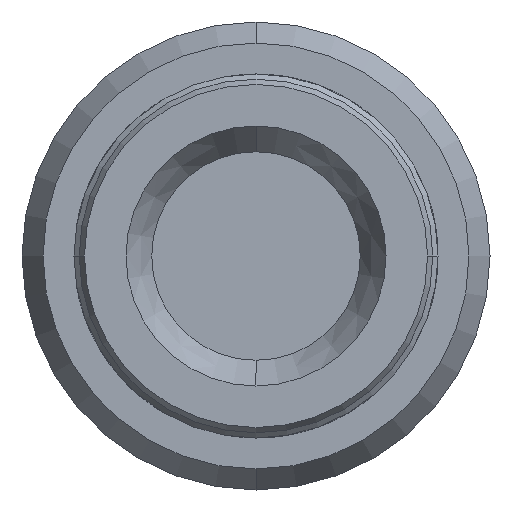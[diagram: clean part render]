
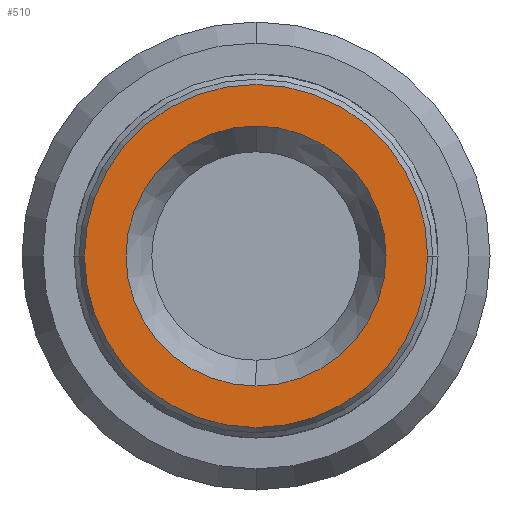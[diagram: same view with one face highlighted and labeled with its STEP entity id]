
A CAD part, front view. The second image highlights one B-rep face of the part: STEP entity #510.
In plain terms, the highlighted planar face has unit normal (0, -1, 0).
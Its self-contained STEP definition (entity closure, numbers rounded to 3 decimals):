
#410 = EDGE_CURVE ( 'NONE', #2781, #3344, #2546, .T. ) ;
#417 = CARTESIAN_POINT ( 'NONE',  ( 0., -121.9, 0. ) ) ;
#427 = CARTESIAN_POINT ( 'NONE',  ( 0., -121.9, 25. ) ) ;
#485 = FACE_OUTER_BOUND ( 'NONE', #2919, .T. ) ;
#510 = ADVANCED_FACE ( 'NONE', ( #2592, #485 ), #923, .F. ) ;
#563 = CARTESIAN_POINT ( 'NONE',  ( -33., -121.9, 0. ) ) ;
#661 = AXIS2_PLACEMENT_3D ( 'NONE', #2537, #2623, #2633 ) ;
#795 = CIRCLE ( 'NONE', #1270, 33. ) ;
#816 = AXIS2_PLACEMENT_3D ( 'NONE', #3795, #1749, #1757 ) ;
#881 = DIRECTION ( 'NONE',  ( 0., 1., 0. ) ) ;
#909 = DIRECTION ( 'NONE',  ( 1., 0., 0. ) ) ;
#923 = PLANE ( 'NONE',  #2102 ) ;
#1187 = DIRECTION ( 'NONE',  ( 0., 1., 0. ) ) ;
#1235 = DIRECTION ( 'NONE',  ( 0., 0., -1. ) ) ;
#1270 = AXIS2_PLACEMENT_3D ( 'NONE', #417, #1694, #909 ) ;
#1589 = VERTEX_POINT ( 'NONE', #563 ) ;
#1686 = ORIENTED_EDGE ( 'NONE', *, *, #410, .T. ) ;
#1694 = DIRECTION ( 'NONE',  ( 0., 1., 0. ) ) ;
#1749 = DIRECTION ( 'NONE',  ( 0., 1., 0. ) ) ;
#1757 = DIRECTION ( 'NONE',  ( 0., 0., -1. ) ) ;
#1836 = EDGE_LOOP ( 'NONE', ( #3068, #1686 ) ) ;
#1948 = EDGE_CURVE ( 'NONE', #3453, #1589, #795, .T. ) ;
#2024 = ORIENTED_EDGE ( 'NONE', *, *, #2798, .F. ) ;
#2102 = AXIS2_PLACEMENT_3D ( 'NONE', #2790, #881, #1235 ) ;
#2147 = AXIS2_PLACEMENT_3D ( 'NONE', #2810, #1187, #2983 ) ;
#2165 = ORIENTED_EDGE ( 'NONE', *, *, #1948, .F. ) ;
#2484 = EDGE_CURVE ( 'NONE', #3344, #2781, #3018, .T. ) ;
#2537 = CARTESIAN_POINT ( 'NONE',  ( 0., -121.9, 0. ) ) ;
#2546 = CIRCLE ( 'NONE', #2147, 25. ) ;
#2592 = FACE_BOUND ( 'NONE', #1836, .T. ) ;
#2623 = DIRECTION ( 'NONE',  ( 0., 1., 0. ) ) ;
#2633 = DIRECTION ( 'NONE',  ( 1., 0., 0. ) ) ;
#2660 = CIRCLE ( 'NONE', #661, 33. ) ;
#2781 = VERTEX_POINT ( 'NONE', #3146 ) ;
#2790 = CARTESIAN_POINT ( 'NONE',  ( 0., -121.9, 0. ) ) ;
#2798 = EDGE_CURVE ( 'NONE', #1589, #3453, #2660, .T. ) ;
#2810 = CARTESIAN_POINT ( 'NONE',  ( 0., -121.9, 0. ) ) ;
#2919 = EDGE_LOOP ( 'NONE', ( #2165, #2024 ) ) ;
#2983 = DIRECTION ( 'NONE',  ( 0., 0., -1. ) ) ;
#3018 = CIRCLE ( 'NONE', #816, 25. ) ;
#3068 = ORIENTED_EDGE ( 'NONE', *, *, #2484, .T. ) ;
#3146 = CARTESIAN_POINT ( 'NONE',  ( 0., -121.9, -25. ) ) ;
#3344 = VERTEX_POINT ( 'NONE', #427 ) ;
#3453 = VERTEX_POINT ( 'NONE', #3664 ) ;
#3664 = CARTESIAN_POINT ( 'NONE',  ( 33., -121.9, 0. ) ) ;
#3795 = CARTESIAN_POINT ( 'NONE',  ( 0., -121.9, 0. ) ) ;
